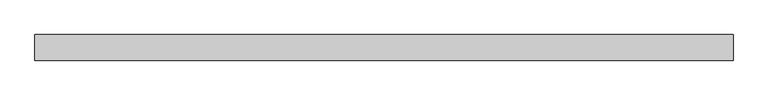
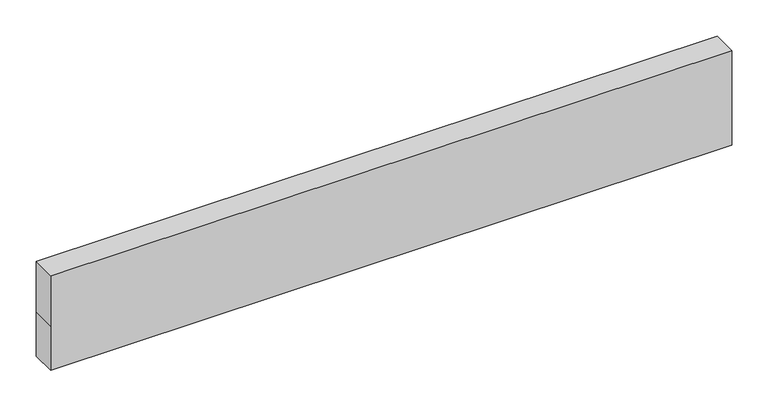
"""IFC4 building model written with IfcOpenShell, lengths in millimetres: plate geometry, Panneau système : Vitré."""

from ifc_helpers import new_model, si_unit, frame, origin, place, context, project, spatial, polyline, outline, extrude, source, transform, mapped, element, save


def plate_d6a724a6(model_context):
    return source(origin(), model_context, "Body", "SweptSolid", [
        extrude(outline(polyline([(0.0, -544.1849144), (0.0, 544.1849144), (75.0, 544.1849144), (160.1375205, 544.1849144), (160.1375205, -544.1849144), (75.0, -544.1849144), (0.0, -544.1849144)])), frame((0.0, -20.0, 0.0), z_axis=(0.0, 1.0, 0.0), x_axis=(0.0, 0.0, 1.0)), (0.0, 0.0, 1.0), 40.0),
    ])


if __name__ == "__main__":
    model = new_model("IFC4")
    model_context = context("Model", 3, world=origin())
    ifc_project = project(units=[si_unit("LENGTHUNIT", "METRE", prefix="MILLI")], contexts=[model_context])
    site = spatial("IfcSite", under=ifc_project)
    building = spatial("IfcBuilding", under=site)
    placement = place(None, origin())
    plate_shape = plate_d6a724a6(model_context)
    element("IfcPlate", 1, ObjectType="Panneau système : Vitré", at=placement, inside=building, context=model_context, shape_type="MappedRepresentation", body=[
        mapped(plate_shape, transform((0.0, 0.0, 0.0), x_axis=(1.0, 0.0, 0.0), y_axis=(0.0, 1.0, 0.0), z_axis=(0.0, 0.0, 1.0))),
    ])
    save(model, "model.ifc")
